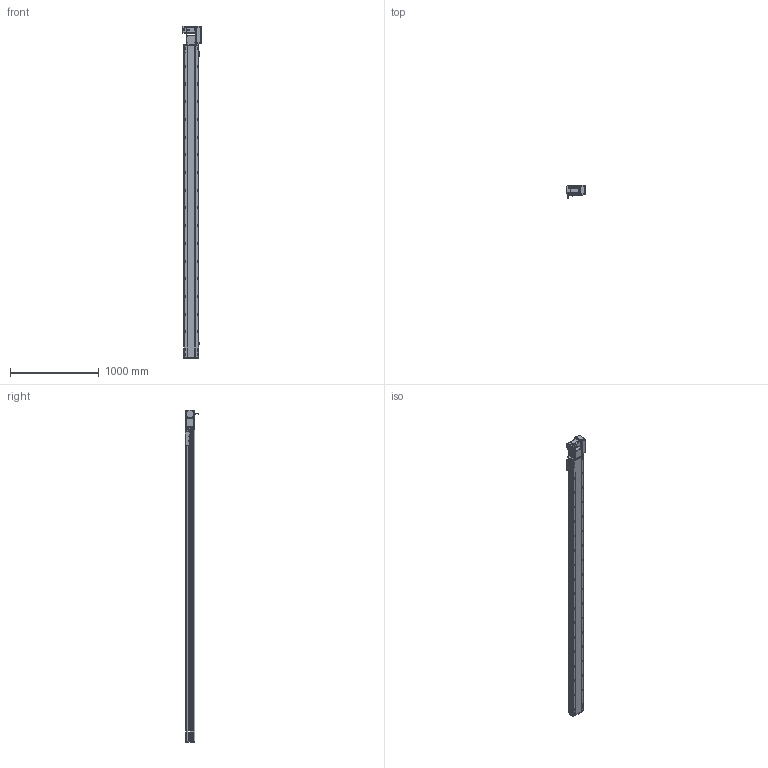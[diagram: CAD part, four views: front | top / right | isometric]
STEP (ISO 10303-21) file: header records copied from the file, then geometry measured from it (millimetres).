
FILE_DESCRIPTION (( 'STEP AP214' ), '1' );
FILE_NAME ('RTB17S-XX-3250-R-M75-C4.STEP', '2025-12-12T01:52:20', ( '' ), ( '' ), 'SwSTEP 2.0', 'SolidWorks 2018', '' );
FILE_SCHEMA (( 'AUTOMOTIVE_DESIGN' ));
Length unit declared in the file: millimetre
Products named in the file (15): RTB22S-GY-005P^RTB17S-R-々湍釱蚾饜-750W_RTB17S-XX-XX-R-M75-C4; RTB17S-R-々湍釱蚾饜-750W^RTB17S-XX-XX-R-M75-C4; RTB22S-GY-017P^RTB17S-R-々湍釱蚾饜-750W_RTB17S-XX-XX-R-M75-C4; RTB22S-GY-018P^RTB17S-R-々湍釱蚾饜-750W_RTB17S-XX-XX-R-M75-C4; EE672^RTB17S-XX-XX-R-M75-C4; RTB17S-XX-3250-R-M75-C4; RTB17S-L-004-賑釱^RTB17S-賑釱_RTB17S-XX-XX-R-M75-C4; RTB17S-L-007奻裔^RTB17S-XX-XX-R-M75-C4; RTB17S-L-014-T20-P75--々湍釱^RTB17S-R-々湍釱蚾饜-750W_RTB17S-XX-XX-R-M75-C4; RTB17S-賑釱^RTB17S-XX-XX-R-M75-C4; RTH13-BL-012覜茼え俋离^RTB17S-賑釱_RTB17S-XX-XX-R-M75-C4; 750W萇儂^RTB17S-XX-XX-R-M75-C4; RTB22S-GY-008-M75--萇儂啣^RTB17S-R-々湍釱蚾饜-750W_RTB17S-XX-XX-R-M75-C4; RTB17-R-011菁釱^RTB17S-XX-XX-R-M75-C4; RTB17S-L-001-耜醱啣^RTB17S-XX-XX-R-M75-C4
Assembly tree (17 placements, depth 3):
  RTB17S-XX-3250-R-M75-C4
    RTB17-R-011菁釱^RTB17S-XX-XX-R-M75-C4
    EE672^RTB17S-XX-XX-R-M75-C4  x3
    RTB17S-L-001-耜醱啣^RTB17S-XX-XX-R-M75-C4
    RTB17S-賑釱^RTB17S-XX-XX-R-M75-C4
      RTB17S-L-004-賑釱^RTB17S-賑釱_RTB17S-XX-XX-R-M75-C4
      RTH13-BL-012覜茼え俋离^RTB17S-賑釱_RTB17S-XX-XX-R-M75-C4
    RTB17S-L-007奻裔^RTB17S-XX-XX-R-M75-C4
    750W萇儂^RTB17S-XX-XX-R-M75-C4
    RTB17S-R-々湍釱蚾饜-750W^RTB17S-XX-XX-R-M75-C4
      RTB17S-L-014-T20-P75--々湍釱^RTB17S-R-々湍釱蚾饜-750W_RTB17S-XX-XX-R-M75-C4
      RTB22S-GY-005P^RTB17S-R-々湍釱蚾饜-750W_RTB17S-XX-XX-R-M75-C4
      RTB22S-GY-017P^RTB17S-R-々湍釱蚾饜-750W_RTB17S-XX-XX-R-M75-C4  x2
      RTB22S-GY-008-M75--萇儂啣^RTB17S-R-々湍釱蚾饜-750W_RTB17S-XX-XX-R-M75-C4
      RTB22S-GY-018P^RTB17S-R-々湍釱蚾饜-750W_RTB17S-XX-XX-R-M75-C4
Bounding box: 207.4 x 152.7 x 3749 mm (x, y, z)
Volume: 26261004.2 mm3; surface area: 4836458.4 mm2
Topology: 17 solids, 17 shells, 2281 faces, 6430 edges, 4166 vertices
Faces by surface type: plane 994, cylinder 871, bspline 294, cone 110, sphere 8, torus 4
Entity records: 67318 total; most frequent: CARTESIAN_POINT 20094, ORIENTED_EDGE 9704, DIRECTION 8942, EDGE_CURVE 4852, AXIS2_PLACEMENT_3D 3186, VERTEX_POINT 3170, LINE 2570, VECTOR 2570
